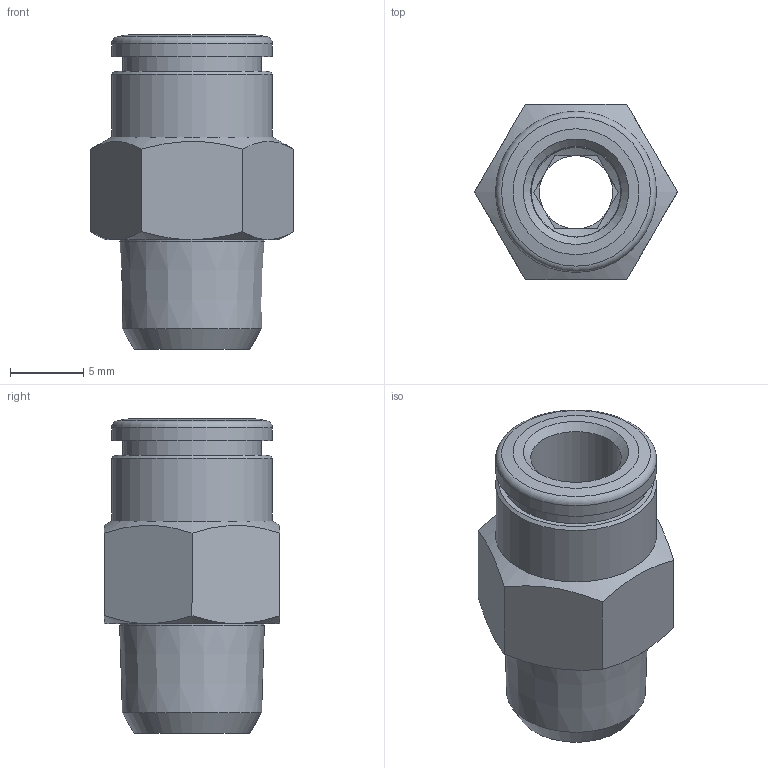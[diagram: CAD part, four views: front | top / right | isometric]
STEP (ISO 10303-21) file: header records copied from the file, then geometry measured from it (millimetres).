
FILE_DESCRIPTION(/* description */ (''),/* implementation_level */ '2;1');
FILE_NAME(/* name */ '200154-ES_STX01K_6_R18_28.04.16',/* time_stamp */ '2016-04-28T12:27:41+02:00',/* author */ (''),/* organization */ (''),/* preprocessor_version */ 'ST-DEVELOPER v14',/* originating_system */ 'HiCAD 2013 1802.4 Build 509',/* authorisation */ '');
FILE_SCHEMA (('AUTOMOTIVE_DESIGN { 1 0 10303 214 1 1 1 1 }'));
Length unit declared in the file: millimetre
Products named in the file (3): Root; R200154-ES-N; DR6-1_NEU
Assembly tree (2 placements, depth 2):
  Root
    R200154-ES-N
    DR6-1_NEU
Bounding box: 13.86 x 12 x 21.5 mm (x, y, z)
Volume: 1254.4 mm3; surface area: 1813.4 mm2
Topology: 2 solids, 2 shells, 54 faces, 114 edges, 67 vertices
Faces by surface type: plane 25, cone 18, cylinder 10, torus 1
Full cylindrical faces by diameter (mm): 5 x1, 6.1 x1, 6.2 x1, 8.3 x1, 9 x1, 9.5 x1, 9.6 x1, 9.884 x1, 11 x2
Entity records: 2308 total; most frequent: DIRECTION 268, CARTESIAN_POINT 210, PRESENTATION_STYLE_ASSIGNMENT 186, OVER_RIDING_STYLED_ITEM 184, COLOUR_RGB 178, DRAUGHTING_PRE_DEFINED_CURVE_FONT 176, CURVE_STYLE 176, ORIENTED_EDGE 176
